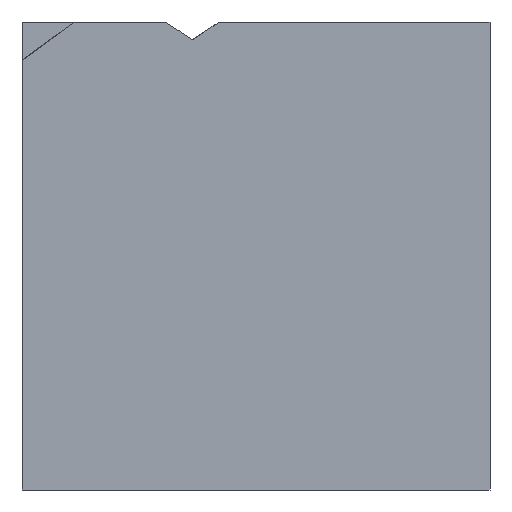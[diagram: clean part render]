
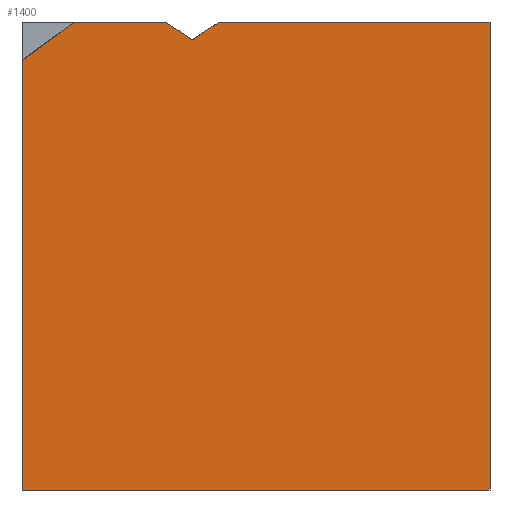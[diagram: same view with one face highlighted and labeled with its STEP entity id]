
A CAD part, front view. The second image highlights one B-rep face of the part: STEP entity #1400.
In plain terms, the highlighted planar face has unit normal (0, -1, 0).
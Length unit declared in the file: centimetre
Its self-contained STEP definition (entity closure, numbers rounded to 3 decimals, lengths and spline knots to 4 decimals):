
#20 = CARTESIAN_POINT ( 'NONE',  ( 364.0637, 0., 961.628 ) ) ;
#49 = VERTEX_POINT ( 'NONE', #1482 ) ;
#63 = VERTEX_POINT ( 'NONE', #1100 ) ;
#122 = CARTESIAN_POINT ( 'NONE',  ( 1000., 0., 0. ) ) ;
#183 = VECTOR ( 'NONE', #1537, 100. ) ;
#188 = EDGE_CURVE ( 'NONE', #1188, #1096, #497, .T. ) ;
#236 = DIRECTION ( 'NONE',  ( -0.831, 0., -0.556 ) ) ;
#241 = CARTESIAN_POINT ( 'NONE',  ( 1000., 0., 1000. ) ) ;
#254 = ORIENTED_EDGE ( 'NONE', *, *, #1248, .F. ) ;
#271 = ORIENTED_EDGE ( 'NONE', *, *, #980, .T. ) ;
#295 = LINE ( 'NONE', #405, #878 ) ;
#303 = LINE ( 'NONE', #1399, #183 ) ;
#336 = ORIENTED_EDGE ( 'NONE', *, *, #744, .F. ) ;
#372 = FACE_OUTER_BOUND ( 'NONE', #955, .T. ) ;
#377 = ORIENTED_EDGE ( 'NONE', *, *, #1288, .F. ) ;
#389 = CARTESIAN_POINT ( 'NONE',  ( 0., 0., 1000. ) ) ;
#398 = DIRECTION ( 'NONE',  ( 0., 1., 0. ) ) ;
#402 = VERTEX_POINT ( 'NONE', #651 ) ;
#405 = CARTESIAN_POINT ( 'NONE',  ( 0., 0., 1000. ) ) ;
#497 = LINE ( 'NONE', #616, #537 ) ;
#508 = ORIENTED_EDGE ( 'NONE', *, *, #1493, .T. ) ;
#519 = VERTEX_POINT ( 'NONE', #1306 ) ;
#537 = VECTOR ( 'NONE', #974, 100. ) ;
#545 = ORIENTED_EDGE ( 'NONE', *, *, #188, .F. ) ;
#551 = VERTEX_POINT ( 'NONE', #704 ) ;
#615 = CARTESIAN_POINT ( 'NONE',  ( 0., 0., 1000. ) ) ;
#616 = CARTESIAN_POINT ( 'NONE',  ( 1000., 0., 1000. ) ) ;
#621 = PLANE ( 'NONE',  #1064 ) ;
#641 = LINE ( 'NONE', #615, #774 ) ;
#651 = CARTESIAN_POINT ( 'NONE',  ( 0., 0., 917.9075 ) ) ;
#661 = EDGE_CURVE ( 'NONE', #63, #551, #1108, .T. ) ;
#704 = CARTESIAN_POINT ( 'NONE',  ( 364.0637, 0., 961.628 ) ) ;
#740 = DIRECTION ( 'NONE',  ( 1., 0., 0. ) ) ;
#744 = EDGE_CURVE ( 'NONE', #402, #519, #1353, .T. ) ;
#755 = DIRECTION ( 'NONE',  ( 0., 0., -1. ) ) ;
#774 = VECTOR ( 'NONE', #755, 100. ) ;
#805 = CARTESIAN_POINT ( 'NONE',  ( 306.7689, 0., 1000. ) ) ;
#812 = ORIENTED_EDGE ( 'NONE', *, *, #1183, .T. ) ;
#864 = CARTESIAN_POINT ( 'NONE',  ( 306.7689, 0., 1000. ) ) ;
#878 = VECTOR ( 'NONE', #1026, 100. ) ;
#955 = EDGE_LOOP ( 'NONE', ( #1149, #271, #254, #336, #812, #508, #545, #377 ) ) ;
#974 = DIRECTION ( 'NONE',  ( 0., 0., -1. ) ) ;
#980 = EDGE_CURVE ( 'NONE', #551, #1407, #1068, .T. ) ;
#1026 = DIRECTION ( 'NONE',  ( 1., 0., 0. ) ) ;
#1064 = AXIS2_PLACEMENT_3D ( 'NONE', #389, #398, #1133 ) ;
#1068 = LINE ( 'NONE', #805, #1091 ) ;
#1090 = DIRECTION ( 'NONE',  ( -0.831, 0., 0.556 ) ) ;
#1091 = VECTOR ( 'NONE', #1090, 100. ) ;
#1096 = VERTEX_POINT ( 'NONE', #122 ) ;
#1100 = CARTESIAN_POINT ( 'NONE',  ( 421.3585, 0., 1000. ) ) ;
#1101 = VECTOR ( 'NONE', #236, 100. ) ;
#1108 = LINE ( 'NONE', #20, #1101 ) ;
#1133 = DIRECTION ( 'NONE',  ( 0., 0., 1. ) ) ;
#1149 = ORIENTED_EDGE ( 'NONE', *, *, #661, .T. ) ;
#1183 = EDGE_CURVE ( 'NONE', #402, #49, #641, .T. ) ;
#1188 = VERTEX_POINT ( 'NONE', #241 ) ;
#1248 = EDGE_CURVE ( 'NONE', #519, #1407, #303, .T. ) ;
#1269 = LINE ( 'NONE', #1524, #1307 ) ;
#1288 = EDGE_CURVE ( 'NONE', #63, #1188, #295, .T. ) ;
#1306 = CARTESIAN_POINT ( 'NONE',  ( 111.7857, 0., 1000. ) ) ;
#1307 = VECTOR ( 'NONE', #740, 100. ) ;
#1353 = LINE ( 'NONE', #1372, #1416 ) ;
#1363 = DIRECTION ( 'NONE',  ( 0.806, 0., 0.592 ) ) ;
#1372 = CARTESIAN_POINT ( 'NONE',  ( 0., 0., 917.9075 ) ) ;
#1399 = CARTESIAN_POINT ( 'NONE',  ( 0., 0., 1000. ) ) ;
#1400 = ADVANCED_FACE ( 'NONE', ( #372 ), #621, .F. ) ;
#1407 = VERTEX_POINT ( 'NONE', #864 ) ;
#1416 = VECTOR ( 'NONE', #1363, 100. ) ;
#1482 = CARTESIAN_POINT ( 'NONE',  ( 0., 0., 0. ) ) ;
#1493 = EDGE_CURVE ( 'NONE', #49, #1096, #1269, .T. ) ;
#1524 = CARTESIAN_POINT ( 'NONE',  ( 0., 0., 0. ) ) ;
#1537 = DIRECTION ( 'NONE',  ( 1., 0., 0. ) ) ;
